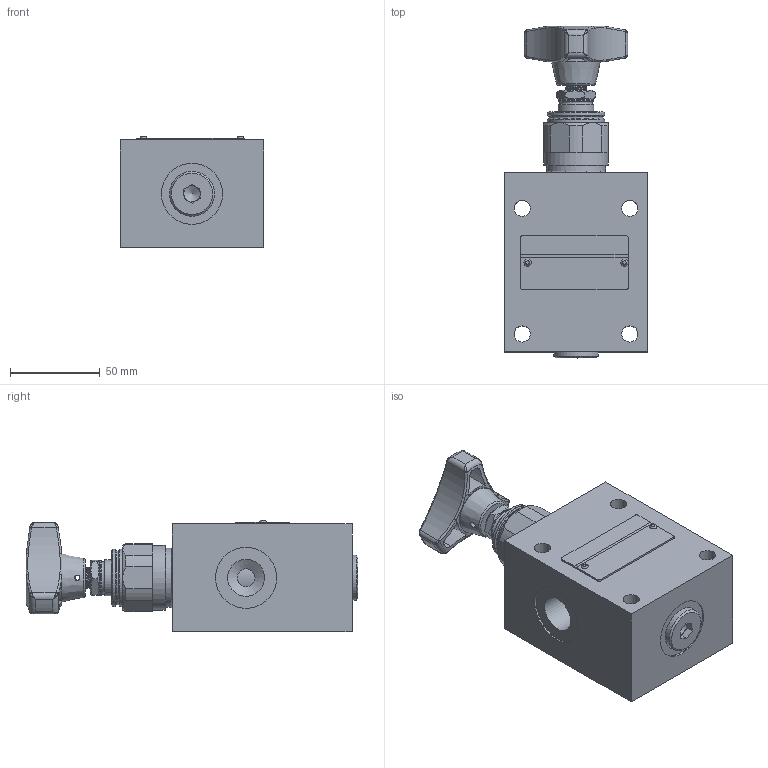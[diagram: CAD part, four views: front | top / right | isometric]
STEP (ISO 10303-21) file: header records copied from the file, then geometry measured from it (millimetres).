
FILE_DESCRIPTION(/* description */ (''),/* implementation_level */ '2;1');
FILE_NAME(/* name */ 'DBDH10G-1XJ直动型管式溢流阀.prt.stp',/* time_stamp */ '2022-03-30T20:13:44+08:00',/* author */ (''),/* organization */ (''),/* preprocessor_version */ 'ST-DEVELOPER v16.7',/* originating_system */ 'SIEMENS PLM Software NX 12.0',/* authorisation */ '');
FILE_SCHEMA (('AUTOMOTIVE_DESIGN { 1 0 10303 214 3 1 1 1 }'));
Length unit declared in the file: millimetre
Products named in the file (1): DBDH10G-1XJ直动型管式溢流阀
Bounding box: 80 x 184.86 x 62 mm (x, y, z)
Volume: 550417.6 mm3; surface area: 94908.5 mm2
Topology: 17 solids, 18 shells, 549 faces, 1303 edges, 794 vertices
Faces by surface type: plane 258, cylinder 149, bspline 62, cone 55, torus 25
Full cylindrical faces by diameter (mm): 1 x1, 1.8 x4, 1.9 x2, 3 x2, 3.1 x2, 4.5 x4, 5.5 x4, 5.7 x1, 6 x2, 6.2 x1, 6.8 x4, 9 x5, 10 x6, 13 x2, 19.7 x1, 20 x1, 20.5 x2, 21.3 x1, 22.5 x2, 24.8 x1, 25 x1, 27.3 x2, 28 x3, 30 x2, 30.025 x1, 31 x1, 31.5 x1, 32 x5, 32.9 x1, 33.5 x12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
Entity records: 28865 total; most frequent: CARTESIAN_POINT 17832, ORIENTED_EDGE 2150, DIRECTION 2076, EDGE_CURVE 1075, AXIS2_PLACEMENT_3D 861, VERTEX_POINT 728, EDGE_LOOP 722, ADVANCED_FACE 537
